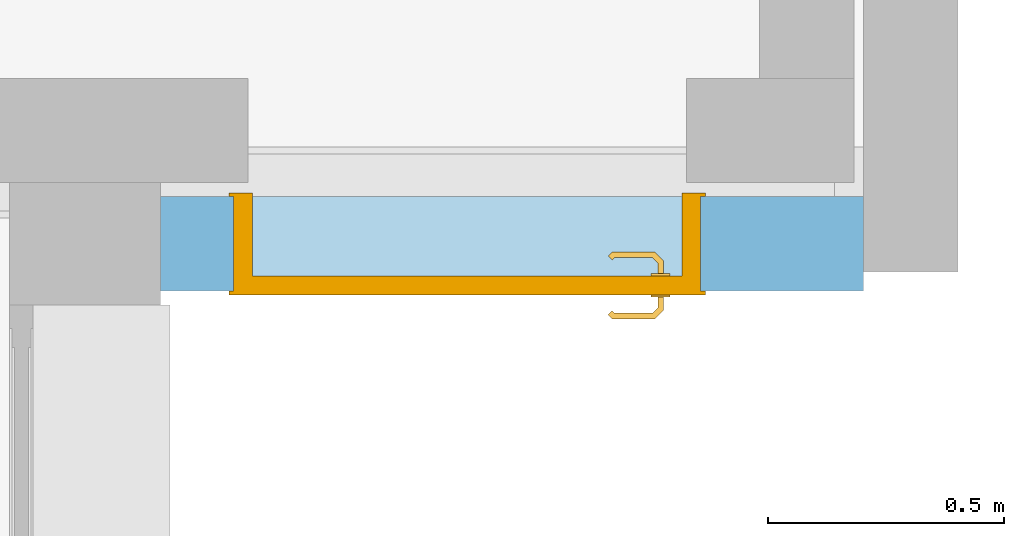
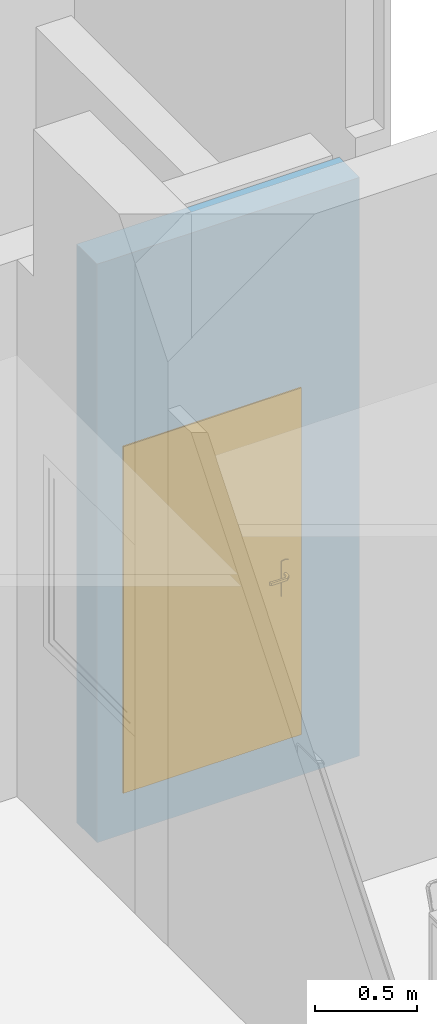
# One storey, part 94 of 137: 1 door, 1 opening, plus 1 element that does not belong to this part.
"""IFC2X3 building model written with IfcOpenShell, lengths in centimetres."""

from ifc_helpers import new_model, entity, si_unit, converted_unit, derived_unit, direction, frame, frame_2d, origin, place, context, subcontext, project, spatial, polyline, rectangle, extrude, clip, bounded_halfspace, faceted_brep, source, transform, mapped, material, material_list, layer, layer_set, layer_usage, type_object, type_shapes, element, fill, save


model = new_model("IFC2X3")

# Units and contexts
model_context = context("Model", 3, precision=0.001, world=origin(), true_north=direction((6.12303176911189e-17, 1.0)))
body_context = subcontext(model_context, "Body", "Model", "MODEL_VIEW")
ifc_project = project(units=[si_unit("LENGTHUNIT", "METRE", prefix="CENTI"), si_unit("AREAUNIT", "SQUARE_METRE"), si_unit("VOLUMEUNIT", "CUBIC_METRE"), converted_unit("PLANEANGLEUNIT", "DEGREE", entity("IfcRatioMeasure", 0.0174532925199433), si_unit("PLANEANGLEUNIT", "RADIAN"), dimensions=[0, 0, 0, 0, 0, 0, 0]), si_unit("MASSUNIT", "GRAM", prefix="KILO"), si_unit("TIMEUNIT", "SECOND"), si_unit("FREQUENCYUNIT", "HERTZ"), si_unit("THERMODYNAMICTEMPERATUREUNIT", "DEGREE_CELSIUS"), derived_unit("THERMALTRANSMITTANCEUNIT", [(si_unit("MASSUNIT", "GRAM", prefix="KILO"), 1), (si_unit("THERMODYNAMICTEMPERATUREUNIT", "KELVIN"), -1), (si_unit("TIMEUNIT", "SECOND"), -3)]), derived_unit("VOLUMETRICFLOWRATEUNIT", [(si_unit("LENGTHUNIT", "METRE"), 3), (si_unit("TIMEUNIT", "SECOND"), -1)]), si_unit("ELECTRICCURRENTUNIT", "AMPERE"), si_unit("ELECTRICVOLTAGEUNIT", "VOLT"), si_unit("POWERUNIT", "WATT"), si_unit("FORCEUNIT", "NEWTON", prefix="KILO"), si_unit("ILLUMINANCEUNIT", "LUX"), si_unit("LUMINOUSFLUXUNIT", "LUMEN"), si_unit("LUMINOUSINTENSITYUNIT", "CANDELA"), derived_unit("USERDEFINED", [(si_unit("MASSUNIT", "GRAM", prefix="KILO"), -1), (si_unit("LENGTHUNIT", "METRE"), -2), (si_unit("TIMEUNIT", "SECOND"), 3), (si_unit("LUMINOUSFLUXUNIT", "LUMEN"), 1)]), derived_unit("LINEARVELOCITYUNIT", [(si_unit("LENGTHUNIT", "METRE"), 1), (si_unit("TIMEUNIT", "SECOND"), -1)]), si_unit("PRESSUREUNIT", "PASCAL"), derived_unit("USERDEFINED", [(si_unit("LENGTHUNIT", "METRE"), -2), (si_unit("MASSUNIT", "GRAM", prefix="KILO"), 1), (si_unit("TIMEUNIT", "SECOND"), -2)])], contexts=[model_context])

# Site, building, storey
site_placement = place(None, frame((8.62739174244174, -249.285249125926, 0.0)))
site = spatial("IfcSite", under=ifc_project, at=site_placement, Name="Default", CompositionType="ELEMENT")
building_placement = place(site_placement, origin())
building = spatial("IfcBuilding", under=site, at=building_placement, CompositionType="ELEMENT")
storey_placement = place(building_placement, origin())
storey = spatial("IfcBuildingStorey", under=building, at=storey_placement, Name="RDC", CompositionType="ELEMENT", Elevation=-8.82465566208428e-11)

# Wall, opening, door
ifc_material_1 = material(Name="Tôle/Doublage")
ifc_layer_1 = layer(ifc_material_1, 4.0)
ifc_material_2 = material(Name="Laine minérale")
ifc_layer_2 = layer(ifc_material_2, 14.0)
ifc_material_3 = material(Name="Plâtre")
ifc_layer_3 = layer(ifc_material_3, 2.0)
ifc_layer_set = layer_set([ifc_layer_1, ifc_layer_2, ifc_layer_3], Name="Mur de base:MET 4 + ISO 14 + PLA 2")
ifc_layer_usage = layer_usage(ifc_layer_set, "AXIS2", "NEGATIVE", 10.0)
wall_type = type_object("IfcWallType", Name="Mur de base:MET 4 + ISO 14 + PLA 2", PredefinedType="NOTDEFINED")
wall_placement = place(storey_placement, frame((3662.90482780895, 1348.98020807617, -25.0), z_axis=(0.0, 0.0, 1.0), x_axis=(-1.0, 0.0, 0.0)))
wall = element("IfcWallStandardCase", 1, at=wall_placement, inside=storey, type_object=wall_type, material=ifc_layer_usage, Name="Mur de base:MET 4 + ISO 14 + PLA 2", ObjectType="Mur de base:MET 4 + ISO 14 + PLA 2", context=body_context, shape_type="Clipping", body=[
    clip(extrude(rectangle(XDim=149.000000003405, YDim=20.0000000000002, at=frame_2d((74.5000000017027, -2.30926389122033e-14), x_axis=(-1.0, 0.0))), origin(), (0.0, 0.0, 1.0), 347.000000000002), bounded_halfspace(frame((0.0, -10.0, 347.0), z_axis=(0.0, 0.0, -1.0), x_axis=(1.0, 0.0, 0.0)), True, frame((0.0, -10.0, 347.0)), polyline([(0.0, 0.0), (149.0, 0.0), (149.0, 12.9997070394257), (0.0, 12.9997070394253), (0.0, 0.0)]))),
])
opening_placement = place(wall_placement, frame((34.5000000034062, -10.0, 25.0)))
opening = element("IfcOpeningElement", 2, at=opening_placement, cuts=wall, Name="Simple(R)_bois_Existant_mu:93 x 204 cm:1", ObjectType="Opening", context=body_context, shape_type="SweptSolid", body=[
    extrude(rectangle(XDim=206.999999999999, YDim=98.9999999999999, at=frame_2d((103.499999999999, 49.4999999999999), x_axis=(1.0, 0.0))), frame((0.0, 0.0, 0.0), z_axis=(0.0, 1.0, 0.0), x_axis=(0.0, 0.0, 1.0)), (0.0, 0.0, 1.0), 20.0),
])
ifc_material_4 = material(Name="Porte - Poignée")
ifc_material_5 = material(Name="Porte - Cadre")
ifc_material_6 = material(Name="Porte - Panneau")
ifc_material_list_1 = material_list([ifc_material_4, ifc_material_5, ifc_material_6])
ifc_material_list_2 = material_list([ifc_material_4, ifc_material_5, ifc_material_6])
door_style = type_object("IfcDoorStyle", Name="93 x 204 cm", ConstructionType="NOTDEFINED", OperationType="SINGLE_SWING_LEFT", ParameterTakesPrecedence=False, Sizeable=False, material=ifc_material_list_2)
shared_shape = source(origin(), body_context, "Body", "Brep", [
    faceted_brep([(91.7025298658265, 3.69999999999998, 100.778044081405), (91.2974701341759, 3.69999999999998, 100.778044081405), (90.8999999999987, 3.69999999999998, 100.699999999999), (90.9000000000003, 3.69999999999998, 99.3000000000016), (91.2974701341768, 3.69999999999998, 99.2219559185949), (91.7025298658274, 3.69999999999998, 99.2219559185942), (92.1000000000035, 3.69999999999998, 99.2999999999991), (92.1000000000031, 3.69999999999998, 100.699999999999), (90.8999999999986, 5.94852045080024, 100.699999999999), (90.8999999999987, 5.94852045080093, 99.3000000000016), (91.2974701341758, 6.1131579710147, 100.778044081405), (91.7025298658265, 6.2809392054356, 100.778044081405), (90.0838906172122, 7.89957845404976, 100.778044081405), (89.9161093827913, 7.49451872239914, 100.778044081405), (81.5793122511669, 7.49451872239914, 100.778044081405), (81.411531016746, 7.89957845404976, 100.778044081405), (80.6451046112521, 7.13315204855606, 100.778044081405), (80.9315250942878, 6.84673156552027, 100.778044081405), (92.1000000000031, 6.44557672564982, 100.699999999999), (92.1000000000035, 6.44557672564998, 99.2999999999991), (91.7025298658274, 6.28093920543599, 99.2219559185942), (91.2974701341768, 6.11315797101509, 99.2219559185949), (89.9161093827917, 7.49451872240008, 99.2219559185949), (90.0838906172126, 7.8995784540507, 99.2219559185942), (81.4115310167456, 7.8995784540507, 99.2219559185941), (81.5793122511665, 7.49451872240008, 99.2219559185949), (80.9315250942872, 6.84673156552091, 99.2219559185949), (80.6451046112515, 7.1331520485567, 99.2219559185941), (89.7514718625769, 7.09704858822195, 100.699999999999), (89.7514718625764, 7.09704858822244, 99.3000000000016), (90.2485281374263, 8.29704858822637, 100.699999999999), (90.2485281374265, 8.29704858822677, 99.2999999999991), (85.7477108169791, 7.09704858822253, 100.699999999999), (81.7439497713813, 7.09704858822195, 100.699999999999), (81.7439497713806, 7.09704858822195, 99.3000000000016), (85.7477108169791, 7.09704858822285, 99.3000000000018), (85.7477108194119, 7.71249275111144, 100.787811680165), (85.2399422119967, 8.29704858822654, 100.699999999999), (81.2468934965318, 8.29704858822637, 100.699999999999), (86.2554791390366, 8.29704858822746, 99.2999999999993), (81.2468934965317, 8.29704858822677, 99.2999999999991), (85.7477107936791, 7.71249274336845, 99.2121883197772), (80.3640507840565, 7.41420587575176, 100.699999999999), (80.364050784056, 7.41420587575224, 99.2999999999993), (81.2125789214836, 6.56567773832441, 99.3000000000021), (81.2125789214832, 6.56567773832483, 100.699999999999)], [[[0, 1, 2, 3, 4, 5, 6, 7]], [[8, 9, 3, 2]], [[1, 10, 8, 2]], [[1, 0, 11, 12, 13, 10]], [[14, 15, 16, 17]], [[7, 18, 11, 0]], [[18, 7, 6, 19]], [[6, 5, 20, 19]], [[5, 4, 21, 22, 23, 20]], [[24, 25, 26, 27]], [[4, 3, 9, 21]], [[28, 29, 9, 8]], [[8, 10, 13, 28]], [[18, 30, 12, 11]], [[31, 30, 18, 19]], [[19, 20, 23, 31]], [[21, 9, 29, 22]], [[29, 28, 32, 33, 34, 35]], [[36, 32, 13]], [[37, 38, 15]], [[37, 12, 30]], [[36, 12, 37]], [[14, 32, 36]], [[36, 15, 14]], [[28, 13, 32]], [[32, 14, 33]], [[12, 36, 13]], [[15, 36, 37]], [[30, 31, 39, 40, 38, 37]], [[23, 41, 39]], [[24, 39, 41]], [[39, 31, 23]], [[39, 24, 40]], [[22, 35, 41]], [[41, 23, 22]], [[41, 35, 25]], [[35, 22, 29]], [[34, 25, 35]], [[24, 41, 25]], [[17, 16, 42, 43, 27, 26, 44, 45]], [[45, 44, 34, 33]], [[33, 14, 17, 45]], [[15, 38, 42, 16]], [[43, 42, 38, 40]], [[24, 27, 43, 40]], [[34, 44, 26, 25]]]),
    faceted_brep([(91.2974701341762, -1.30000000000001, 100.778044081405), (91.7025298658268, -1.30000000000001, 100.778044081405), (92.1000000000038, -1.30000000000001, 100.699999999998), (92.1000000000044, -1.30000000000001, 99.2999999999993), (91.7025298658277, -1.30000000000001, 99.2219559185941), (91.297470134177, -1.30000000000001, 99.2219559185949), (90.899999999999, -1.30000000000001, 99.3000000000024), (90.8999999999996, -1.30000000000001, 100.699999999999), (91.7025298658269, -3.90045754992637, 100.778044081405), (92.100000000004, -4.06509507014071, 100.699999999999), (91.2974701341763, -3.73267631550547, 100.778044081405), (89.9298602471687, -5.10028620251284, 100.778044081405), (90.0976414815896, -5.50534593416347, 100.778044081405), (81.4142453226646, -5.50534593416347, 100.778044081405), (81.5820265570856, -5.10028620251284, 100.778044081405), (80.9342394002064, -4.4524990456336, 100.778044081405), (80.6478189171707, -4.73891952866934, 100.778044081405), (90.8999999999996, -3.56803879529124, 100.699999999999), (90.899999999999, -3.56803879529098, 99.3000000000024), (91.297470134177, -3.7326763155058, 99.2219559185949), (91.7025298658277, -3.9004575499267, 99.2219559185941), (90.09764148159, -5.50534593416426, 99.2219559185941), (89.9298602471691, -5.10028620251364, 99.2219559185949), (81.5820265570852, -5.10028620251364, 99.2219559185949), (81.4142453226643, -5.50534593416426, 99.2219559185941), (80.6478189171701, -4.73891952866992, 99.2219559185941), (80.9342394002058, -4.45249904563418, 99.2219559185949), (92.1000000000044, -4.06509507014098, 99.2999999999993), (90.2622790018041, -5.9028160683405, 100.699999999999), (89.7652227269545, -4.70281606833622, 100.699999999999), (89.7652227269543, -4.70281606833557, 99.3000000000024), (90.2622790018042, -5.90281606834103, 99.2999999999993), (85.7559433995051, -5.31828027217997, 100.787811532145), (86.2692302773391, -5.90281606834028, 100.699999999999), (81.2496078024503, -5.90281606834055, 100.699999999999), (85.755943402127, -4.70281606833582, 100.699999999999), (81.7466640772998, -4.70281606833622, 100.699999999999), (85.7559436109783, -4.70281606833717, 99.3000000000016), (81.7466640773, -4.70281606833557, 99.3000000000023), (85.7559434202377, -5.31828027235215, 99.2121884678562), (85.2426572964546, -5.90281606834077, 99.2999999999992), (81.24960780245, -5.90281606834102, 99.2999999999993), (81.2152932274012, -4.17144521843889, 99.3000000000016), (80.366765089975, -5.01997335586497, 99.2999999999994), (80.3667650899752, -5.01997335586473, 100.699999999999), (81.2152932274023, -4.17144521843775, 100.699999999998)], [[[0, 1, 2, 3, 4, 5, 6, 7]], [[2, 1, 8, 9]], [[1, 0, 10, 11, 12, 8]], [[13, 14, 15, 16]], [[0, 7, 17, 10]], [[18, 17, 7, 6]], [[5, 19, 18, 6]], [[5, 4, 20, 21, 22, 19]], [[23, 24, 25, 26]], [[3, 27, 20, 4]], [[9, 27, 3, 2]], [[9, 8, 12, 28]], [[10, 17, 29, 11]], [[30, 29, 17, 18]], [[18, 19, 22, 30]], [[20, 27, 31, 21]], [[28, 31, 27, 9]], [[12, 32, 33]], [[13, 33, 32]], [[33, 28, 12]], [[33, 13, 34]], [[11, 35, 32]], [[32, 12, 11]], [[32, 35, 14]], [[35, 11, 29]], [[36, 14, 35]], [[13, 32, 14]], [[29, 30, 37, 38, 36, 35]], [[39, 37, 22]], [[40, 41, 24]], [[40, 21, 31]], [[39, 21, 40]], [[23, 37, 39]], [[39, 24, 23]], [[30, 22, 37]], [[37, 23, 38]], [[21, 39, 22]], [[24, 39, 40]], [[31, 28, 33, 34, 41, 40]], [[42, 26, 25, 43, 44, 16, 15, 45]], [[13, 16, 44, 34]], [[36, 45, 15, 14]], [[42, 45, 36, 38]], [[38, 23, 26, 42]], [[24, 41, 43, 25]], [[44, 43, 41, 34]]]),
    faceted_brep([(91.5000000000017, 3.19999999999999, 86.4641016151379), (92.5352761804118, 3.19999999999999, 86.6003983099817), (93.5000000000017, 3.19999999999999, 87.0), (93.5000000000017, 3.19999999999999, 108.0), (92.5352761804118, 3.19999999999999, 108.399601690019), (91.5000000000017, 3.19999999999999, 108.535898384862), (90.4647238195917, 3.19999999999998, 108.399601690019), (89.5000000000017, 3.19999999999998, 108.0), (89.5000000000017, 3.19999999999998, 87.0), (90.4647238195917, 3.19999999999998, 86.6003983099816), (91.5000000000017, 3.69999999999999, 108.535898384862), (92.5352761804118, 3.69999999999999, 108.399601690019), (93.5000000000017, 3.69999999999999, 108.0), (93.5000000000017, 3.69999999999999, 87.0), (92.5352761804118, 3.69999999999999, 86.6003983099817), (91.5000000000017, 3.69999999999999, 86.4641016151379), (90.4647238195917, 3.69999999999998, 86.6003983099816), (89.5000000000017, 3.69999999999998, 87.0), (89.5000000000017, 3.69999999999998, 108.0), (90.4647238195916, 3.69999999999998, 108.399601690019)], [[[0, 1, 2, 3, 4, 5, 6, 7, 8, 9]], [[10, 11, 12, 13, 14, 15, 16, 17, 18, 19]], [[6, 19, 18, 7]], [[5, 10, 19, 6]], [[4, 11, 10, 5]], [[4, 3, 12, 11]], [[12, 3, 2, 13]], [[1, 14, 13, 2]], [[0, 15, 14, 1]], [[9, 16, 15, 0]], [[9, 8, 17, 16]], [[17, 8, 7, 18]]]),
    faceted_brep([(91.5000000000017, -1.30000000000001, 86.4641016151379), (92.5352761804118, -1.30000000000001, 86.6003983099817), (93.5000000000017, -1.30000000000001, 87.0), (93.5000000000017, -1.30000000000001, 108.0), (92.5352761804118, -1.30000000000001, 108.399601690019), (91.5000000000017, -1.30000000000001, 108.535898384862), (90.4647238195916, -1.30000000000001, 108.399601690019), (89.5000000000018, -1.30000000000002, 108.0), (89.5000000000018, -1.30000000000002, 87.0), (90.4647238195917, -1.30000000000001, 86.6003983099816), (93.5000000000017, -0.800000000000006, 108.0), (93.5000000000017, -0.800000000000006, 87.0), (92.5352761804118, -0.800000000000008, 86.6003983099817), (91.5000000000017, -0.800000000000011, 86.4641016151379), (90.4647238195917, -0.800000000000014, 86.6003983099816), (89.5000000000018, -0.800000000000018, 87.0), (89.5000000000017, -0.800000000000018, 108.0), (90.4647238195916, -0.800000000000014, 108.399601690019), (91.5000000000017, -0.800000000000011, 108.535898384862), (92.5352761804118, -0.800000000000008, 108.399601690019)], [[[0, 1, 2, 3, 4, 5, 6, 7, 8, 9]], [[10, 11, 12, 13, 14, 15, 16, 17, 18, 19]], [[1, 12, 11, 2]], [[0, 13, 12, 1]], [[9, 14, 13, 0]], [[9, 8, 15, 14]], [[15, 8, 7, 16]], [[6, 17, 16, 7]], [[5, 18, 17, 6]], [[4, 19, 18, 5]], [[4, 3, 10, 19]], [[10, 3, 2, 11]]]),
    faceted_brep([(100.0, 0.0, 0.0), (101.0, 0.0, 0.0), (101.0, -0.799999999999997, 0.0), (97.0, -0.799999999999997, 0.0), (97.0, 3.2, 0.0), (96.0, 3.2, 0.0), (96.0, 20.8000000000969, 0.0), (101.0, 20.8000000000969, 0.0), (101.0, 20.0, 0.0), (100.0, 20.0, 0.0), (100.0, 20.0, 207.0), (100.0, 0.0, 207.0), (101.0, 20.0, 208.0), (0.0, 20.0, 208.0), (0.0, 20.0, 0.0), (1.0, 20.0, 0.0), (1.0, 20.0, 207.0), (101.0, 20.8000000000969, 208.0), (96.0, 20.8000000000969, 203.0), (5.0, 20.8000000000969, 203.0), (5.0, 20.8000000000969, 0.0), (0.0, 20.8000000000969, 0.0), (0.0, 20.8000000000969, 208.0), (96.0, 3.2, 203.0), (97.0, 3.2, 204.0), (4.0, 3.2, 204.0), (4.0, 3.2, 0.0), (5.0, 3.2, 0.0), (5.0, 3.2, 203.0), (97.0, -0.799999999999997, 204.0), (101.0, -0.799999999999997, 208.0), (0.0, -0.799999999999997, 208.0), (0.0, -0.799999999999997, 0.0), (4.0, -0.799999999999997, 0.0), (4.0, -0.799999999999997, 204.0), (101.0, 0.0, 208.0), (1.0, 0.0, 207.0), (1.0, 0.0, 0.0), (0.0, 0.0, 0.0), (0.0, 0.0, 208.0)], [[[0, 1, 2, 3, 4, 5, 6, 7, 8, 9]], [[9, 10, 11, 0]], [[8, 12, 13, 14, 15, 16, 10, 9]], [[7, 17, 12, 8]], [[6, 18, 19, 20, 21, 22, 17, 7]], [[5, 23, 18, 6]], [[4, 24, 25, 26, 27, 28, 23, 5]], [[3, 29, 24, 4]], [[2, 30, 31, 32, 33, 34, 29, 3]], [[1, 35, 30, 2]], [[0, 11, 36, 37, 38, 39, 35, 1]], [[16, 15, 37, 36]], [[37, 15, 14, 21, 20, 27, 26, 33, 32, 38]], [[22, 21, 14, 13]], [[28, 27, 20, 19]], [[34, 33, 26, 25]], [[39, 38, 32, 31]], [[10, 16, 36, 11]], [[17, 22, 13, 12]], [[23, 28, 19, 18]], [[29, 34, 25, 24]], [[35, 39, 31, 30]]]),
    faceted_brep([(97.0, -0.799999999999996, 204.0), (4.0, -0.799999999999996, 204.0), (4.0, -0.799999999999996, 0.0), (97.0, -0.799999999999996, 0.0), (97.0, 3.2, 204.0), (97.0, 3.2, 0.0), (4.0, 3.2, 0.0), (4.0, 3.2, 204.0)], [[[0, 1, 2, 3]], [[4, 5, 6, 7]], [[3, 5, 4, 0]], [[2, 6, 5, 3]], [[1, 7, 6, 2]], [[0, 4, 7, 1]]]),
])
type_shapes(door_style, [shared_shape])
door_placement = place(opening_placement, frame((100.0, 20.0, 0.0), z_axis=(0.0, 0.0, 1.0), x_axis=(-1.0, 0.0, 0.0)))
door = element("IfcDoor", 3, at=door_placement, inside=storey, type_object=door_style, material=ifc_material_list_1, Name="Simple(R)_bois_Existant_mu:93 x 204 cm", ObjectType="93 x 204 cm", OverallHeight=206.999999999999, OverallWidth=99.0, context=body_context, shape_type="MappedRepresentation", body=[
    mapped(shared_shape, transform((0.0, 0.0, 0.0), scale=1.0)),
])
fill(opening, door)

save(model, "model.ifc")
